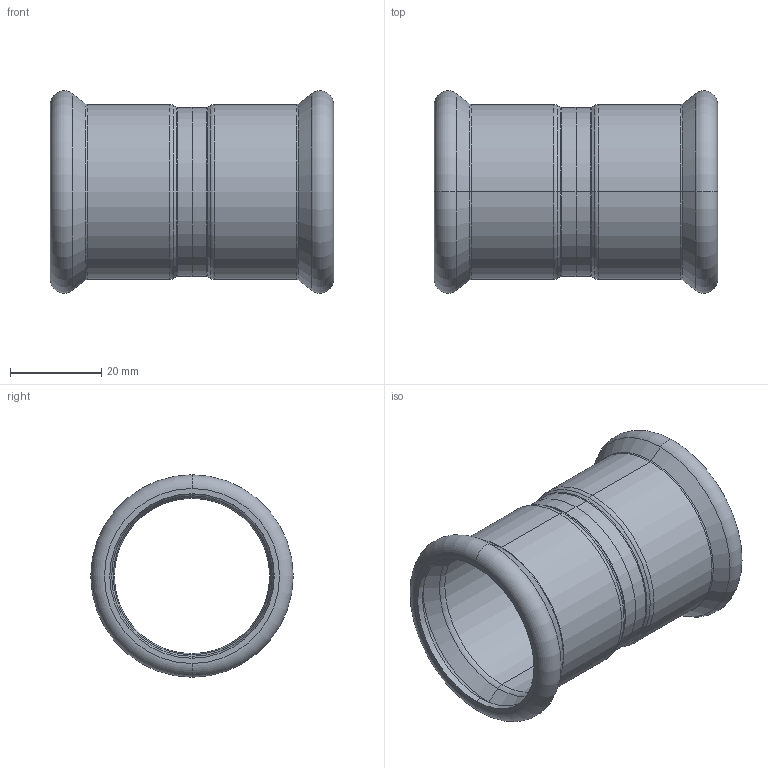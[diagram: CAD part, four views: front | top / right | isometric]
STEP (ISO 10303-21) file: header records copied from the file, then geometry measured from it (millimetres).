
FILE_DESCRIPTION (( 'STEP AP203' ), '1' );
FILE_NAME ('GDA5005.STEP', '2019-01-21T08:50:24', ( '' ), ( '' ), 'SwSTEP 2.0', 'SolidWorks 2015', '' );
FILE_SCHEMA (( 'CONFIG_CONTROL_DESIGN' ));
Length unit declared in the file: millimetre
Products named in the file (1): GDA5005
Bounding box: 62 x 44.3 x 44.3 mm (x, y, z)
Volume: 11990.5 mm3; surface area: 16670.6 mm2
Topology: 2 solids, 2 shells, 74 faces, 148 edges, 80 vertices
Faces by surface type: torus 32, cylinder 20, cone 16, plane 6
Entity records: 1999 total; most frequent: DIRECTION 410, CARTESIAN_POINT 303, ORIENTED_EDGE 296, AXIS2_PLACEMENT_3D 187, EDGE_CURVE 148, CIRCLE 112, VERTEX_POINT 80, EDGE_LOOP 80
